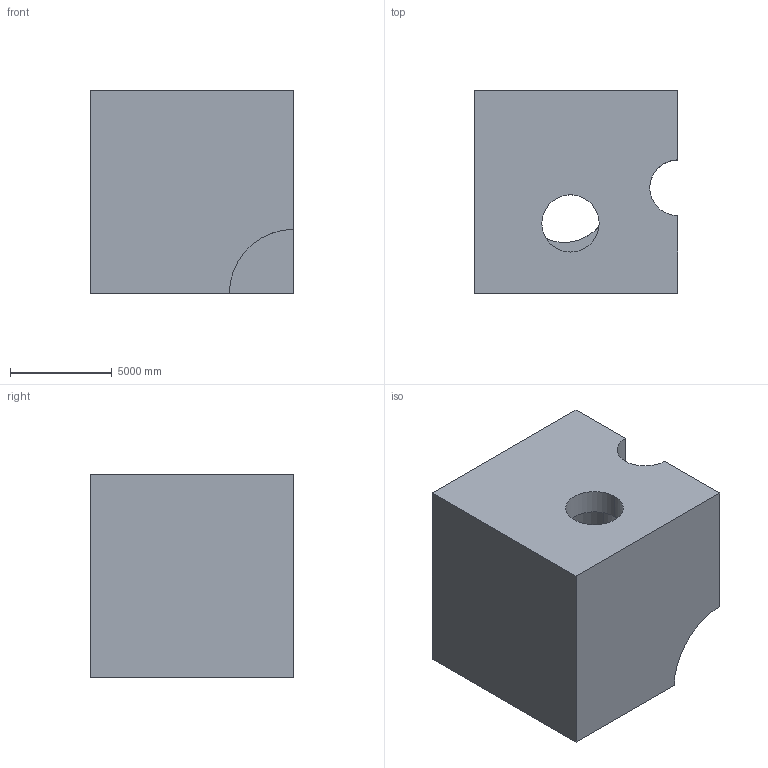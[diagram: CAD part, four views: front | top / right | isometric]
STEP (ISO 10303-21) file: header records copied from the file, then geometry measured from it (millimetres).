
FILE_DESCRIPTION (( 'STEP AP203' ), '1' );
FILE_NAME ('379.STEP', '2022-07-29T11:03:43', ( 'user' ), ( '' ), 'SwSTEP 2.0', 'SolidWorks 2021', '' );
FILE_SCHEMA (( 'CONFIG_CONTROL_DESIGN' ));
Length unit declared in the file: centimetre
Products named in the file (1): 379
Bounding box: 10000 x 10000 x 10000 mm (x, y, z)
Volume: 766298584045.7 mm3; surface area: 719432341.4 mm2
Topology: 1 solids, 1 shells, 17 faces, 45 edges, 30 vertices
Faces by surface type: plane 10, cylinder 7
Entity records: 785 total; most frequent: CARTESIAN_POINT 266, DIRECTION 95, ORIENTED_EDGE 90, EDGE_CURVE 45, AXIS2_PLACEMENT_3D 34, VERTEX_POINT 30, LINE 27, VECTOR 27
